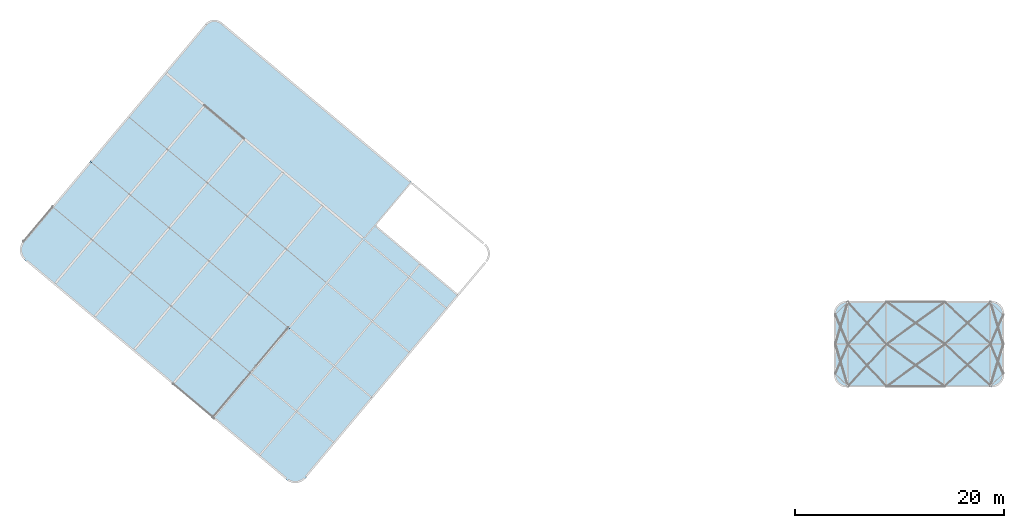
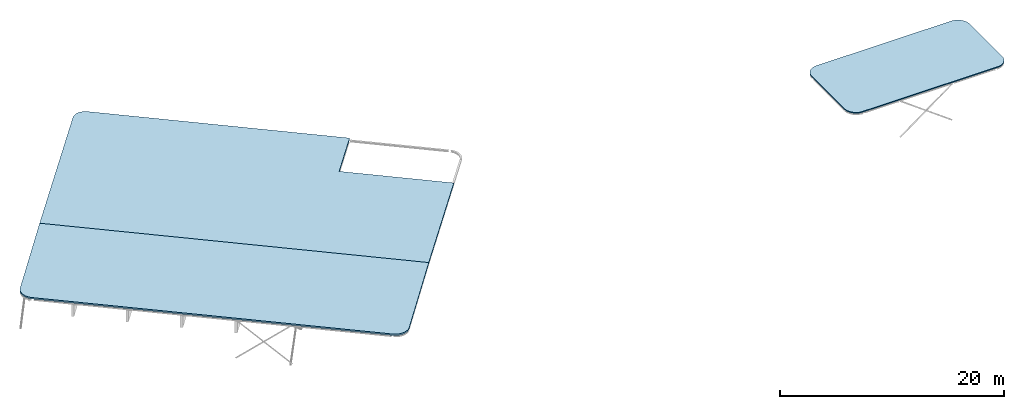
# One storey, part 6 of 14: 3 slabs.
"""IFC2X3 building model written with IfcOpenShell, lengths in millimetres."""

from ifc_helpers import new_model, entity, si_unit, converted_unit, derived_unit, direction, frame, frame_2d, origin, place, context, subcontext, project, spatial, polyline, circle_curve, ellipse_curve, parameter, trimmed, segment, composite_curve, outline, extrude, material, layer, layer_set, layer_usage, type_object, element, save


model = new_model("IFC2X3")

# Units and contexts
model_context = context("Model", 3, precision=0.01, world=origin(), true_north=direction((6.123031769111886e-17, 1.0)))
body_context = subcontext(model_context, "Body", "Model", "MODEL_VIEW")
ifc_project = project(units=[si_unit("LENGTHUNIT", "METRE", prefix="MILLI"), si_unit("AREAUNIT", "SQUARE_METRE"), si_unit("VOLUMEUNIT", "CUBIC_METRE"), derived_unit("MASSDENSITYUNIT", [(si_unit("MASSUNIT", "GRAM", prefix="KILO"), 1), (si_unit("LENGTHUNIT", "METRE"), -3)]), si_unit("MASSUNIT", "GRAM", prefix="KILO"), converted_unit("PLANEANGLEUNIT", "DEGREE", entity("IfcPlaneAngleMeasure", 0.017453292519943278), si_unit("PLANEANGLEUNIT", "RADIAN"), dimensions=[0, 0, 0, 0, 0, 0, 0])], contexts=[model_context])

# Site, building, storey
site_placement = place(None, origin())
site = spatial("IfcSite", under=ifc_project, at=site_placement, Name="Default", CompositionType="ELEMENT")
building_placement = place(site_placement, origin())
building = spatial("IfcBuilding", under=site, at=building_placement, Name="AT constructie", CompositionType="ELEMENT")
storey_placement = place(building_placement, frame((0.0, 0.0, 12043.0)))
storey = spatial("IfcBuildingStorey", under=building, at=storey_placement, Name="03 derde verdieping", CompositionType="ELEMENT", Elevation=12043.0)

# Slabs
ifc_material = material(Name="h2_staalplaat")
ifc_layer_1 = layer(ifc_material, 158.1)
ifc_layer_set_1 = layer_set([ifc_layer_1], Name="Floor:NLRS_27_FL_stalendakplaat 158 t=1,25_gen_AT")
ifc_layer_usage_1 = layer_usage(ifc_layer_set_1, "AXIS3", "POSITIVE", 0.0)
slab_type_1 = type_object("IfcSlabType", Name="NLRS_27_FL_stalendakplaat 158 t=1,25_gen_AT", PredefinedType="FLOOR", material=ifc_layer_set_1)
slab_1_placement = place(storey_placement, frame((6618.26431951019, 14000.853769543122, -180.12023550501)))
element("IfcSlab", 1, at=slab_1_placement, inside=storey, type_object=slab_type_1, material=ifc_layer_usage_1, Name="Floor:NLRS_27_FL_stalendakplaat 158 t=1,25_gen_AT", ObjectType="Floor:NLRS_27_FL_stalendakplaat 158 t=1,25_gen_AT", PredefinedType="FLOOR", context=body_context, shape_type="SweptSolid", body=[
    extrude(outline(composite_curve([segment(polyline([(17218.075234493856, -14445.831630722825), (-9776.843169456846, 8202.695619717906)]), True, "CONTINUOUS"), segment(polyline([(-9776.843169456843, 8202.695619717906), (-16221.129694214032, 521.7110248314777)]), True, "CONTINUOUS"), segment(trimmed(ellipse_curve(frame_2d((-15195.678526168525, -257.4882982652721), x_axis=(0.7660849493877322, -0.6427393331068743)), 1287.9055454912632, 1288.0703868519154), [parameter(182.76628674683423)], [parameter(268.0464057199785)], True, "PARAMETER"), True, "CONTINUOUS"), segment(polyline([(-16056.725602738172, -1215.466773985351), (9034.471701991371, -22266.786781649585)]), True, "CONTINUOUS"), segment(trimmed(ellipse_curve(frame_2d((9828.24922771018, -21252.369674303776), x_axis=(0.7660849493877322, -0.6427393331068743)), 1287.9055454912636, 1288.0703868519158), [parameter(271.95359428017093)], [parameter(357.23371325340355)], True, "PARAMETER"), True, "CONTINUOUS"), segment(polyline([(10773.788709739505, -22126.81622560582), (17218.075234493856, -14445.831630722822)]), True, "CONTINUOUS")], self_intersect=False)), frame((16481.491581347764, 22539.316346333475, 338.1202355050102), z_axis=(-0.01028328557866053, -0.012255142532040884, 0.9998720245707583), x_axis=(0.9999471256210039, -0.0001260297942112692, 0.010282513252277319)), (-0.010282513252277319, -0.012255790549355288, -0.9998720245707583), 158.12023550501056),
])
ifc_layer_usage_2 = layer_usage(ifc_layer_set_1, "AXIS3", "POSITIVE", 0.0)
slab_2_placement = place(storey_placement, frame((13323.429675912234, 22093.253449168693, -292.12023550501)))
element("IfcSlab", 2, at=slab_2_placement, inside=storey, type_object=slab_type_1, material=ifc_layer_usage_2, Name="Floor:NLRS_27_FL_stalendakplaat 158 t=1,25_gen_AT", ObjectType="Floor:NLRS_27_FL_stalendakplaat 158 t=1,25_gen_AT", PredefinedType="FLOOR", context=body_context, shape_type="SweptSolid", body=[
    extrude(outline(composite_curve([segment(polyline([(16880.681859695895, -14162.76120506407), (25154.4386193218, -4301.219827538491)]), True, "CONTINUOUS"), segment(polyline([(25154.4386193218, -4301.219827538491), (17200.561632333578, 2372.0212984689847)]), True, "CONTINUOUS"), segment(polyline([(17200.561632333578, 2372.021298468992), (20658.299044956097, 6493.319707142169)]), True, "CONTINUOUS"), segment(polyline([(20658.299044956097, 6493.319707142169), (2454.490486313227, 21766.173954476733)]), True, "CONTINUOUS"), segment(trimmed(ellipse_curve(frame_2d((1758.8347070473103, 20844.064023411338), x_axis=(0.7660849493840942, -0.6427393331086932)), 1154.9385818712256, 1155.086404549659), [parameter(92.96523053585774)], [parameter(176.36650888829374)], True, "PARAMETER"), True, "CONTINUOUS"), segment(polyline([(922.8821864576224, 21640.97548816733), (-10114.236544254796, 8485.766045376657)]), True, "CONTINUOUS"), segment(polyline([(-10114.236544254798, 8485.766045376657), (16880.681859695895, -14162.761205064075)]), True, "CONTINUOUS")], self_intersect=False)), frame((10113.701760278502, 14163.824979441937, 450.1202355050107), z_axis=(0.010283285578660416, 0.012255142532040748, 0.9998720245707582), x_axis=(0.9999471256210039, -0.00012602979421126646, -0.010282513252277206)), (0.010282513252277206, 0.012255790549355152, -0.9998720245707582), 158.12023550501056),
])
ifc_layer_2 = layer(ifc_material, 108.0)
ifc_layer_set_2 = layer_set([ifc_layer_2], Name="Floor:NLRS_27_FL_stalendakplaat 106_gen_AT")
ifc_layer_usage_3 = layer_usage(ifc_layer_set_2, "AXIS3", "POSITIVE", 0.0)
slab_type_2 = type_object("IfcSlabType", Name="NLRS_27_FL_stalendakplaat 106_gen_AT", PredefinedType="FLOOR", material=ifc_layer_set_2)
slab_3_placement = place(storey_placement, origin())
element("IfcSlab", 3, at=slab_3_placement, inside=storey, type_object=slab_type_2, material=ifc_layer_usage_3, Name="Floor:NLRS_27_FL_stalendakplaat 106_gen_AT", ObjectType="Floor:NLRS_27_FL_stalendakplaat 106_gen_AT", PredefinedType="FLOOR", context=body_context, shape_type="SweptSolid", body=[
    extrude(outline(composite_curve([segment(polyline([(-2922.5000000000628, -8120.0), (2917.5000000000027, -8120.0)]), True, "CONTINUOUS"), segment(trimmed(circle_curve(frame_2d((2917.5000000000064, -6920.0), x_axis=(0.0, -1.0)), 1200.0000000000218), [parameter(0.0)], [parameter(90.0000000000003)], True, "PARAMETER"), True, "CONTINUOUS"), segment(polyline([(4117.499999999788, -6920.0), (4117.500000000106, 6920.0)]), True, "CONTINUOUS"), segment(trimmed(circle_curve(frame_2d((2917.5000000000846, 6920.0), x_axis=(1.0, 0.0)), 1200.0000000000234), [parameter(0.0)], [parameter(89.99999999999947)], True, "PARAMETER"), True, "CONTINUOUS"), segment(polyline([(2917.5000000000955, 8120.0), (-2922.4999999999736, 8120.0)]), True, "CONTINUOUS"), segment(trimmed(circle_curve(frame_2d((-2922.4999999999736, 6920.0), x_axis=(0.0, 1.0)), 1200.0000000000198), [parameter(0.0)], [parameter(82.59800031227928)], True, "PARAMETER"), True, "CONTINUOUS"), segment(polyline([(-4112.499999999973, 7074.596248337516), (-4112.4999999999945, -7074.596248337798)]), True, "CONTINUOUS"), segment(trimmed(circle_curve(frame_2d((-2922.5000000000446, -6920.0), x_axis=(-0.9916666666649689, -0.12883020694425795)), 1200.0000000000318), [parameter(0.0)], [parameter(82.59800031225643)], True, "PARAMETER"), True, "CONTINUOUS")], self_intersect=False)), frame((92546.8746311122, 27273.543508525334, 106.0), z_axis=(0.0, 0.0, -1.0), x_axis=(0.0, 1.0, 0.0)), (0.0, 0.0, 1.0), 107.99999999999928),
])

save(model, "model.ifc")
